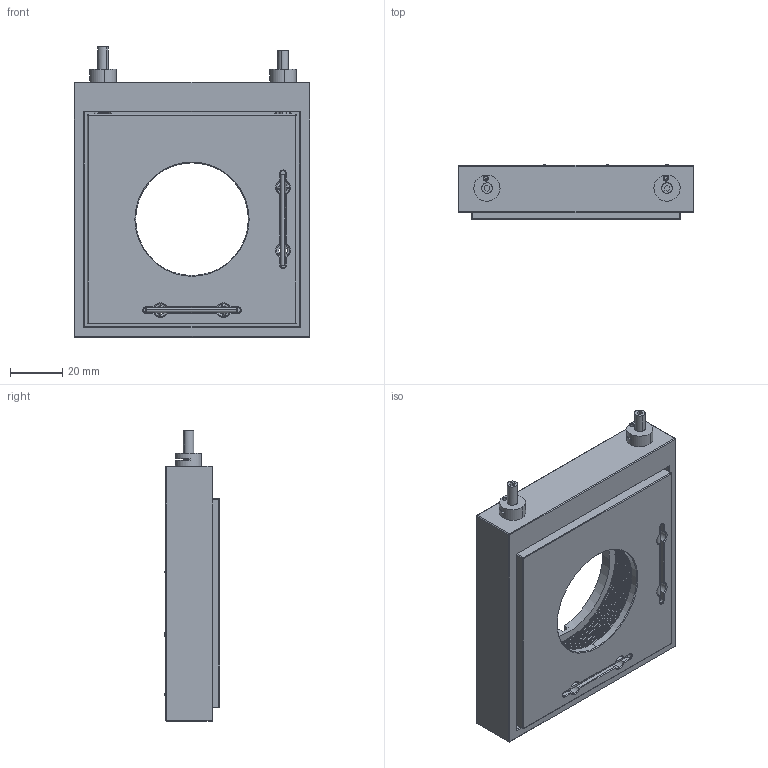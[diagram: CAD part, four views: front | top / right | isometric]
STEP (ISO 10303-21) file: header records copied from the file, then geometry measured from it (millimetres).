
FILE_DESCRIPTION (( 'STEP AP203' ), '1' );
FILE_NAME ('×°ÅäÌå1.STEP', '2024-12-14T03:50:00', ( '' ), ( '' ), 'SwSTEP 2.0', 'SolidWorks 2024', '' );
FILE_SCHEMA (( 'CONFIG_CONTROL_DESIGN' ));
Length unit declared in the file: millimetre
Products named in the file (11): 零件24; 2螺母; 零件52; 2小杆; 长顶杆2; 零件42; 3; 2短顶杆; 装配体1; 0.8×5×12.4弹簧22; 2台面
Assembly tree (19 placements, depth 2):
  装配体1
    2台面
    3
    2小杆  x4
    2螺母  x2
    长顶杆2
    0.8×5×12.4弹簧22  x4
    2短顶杆
    零件42
    零件52  x3
    零件24
Bounding box: 90 x 21.13 x 110.77 mm (x, y, z)
Volume: 119871.2 mm3; surface area: 52278.3 mm2
Topology: 19 solids, 19 shells, 810 faces, 2085 edges, 1304 vertices
Faces by surface type: cylinder 290, plane 279, cone 109, bspline 95, torus 19, sphere 18
Entity records: 36208 total; most frequent: CARTESIAN_POINT 18365, ORIENTED_EDGE 3728, DIRECTION 3104, EDGE_CURVE 1864, VERTEX_POINT 1179, AXIS2_PLACEMENT_3D 1091, LINE 922, VECTOR 922
